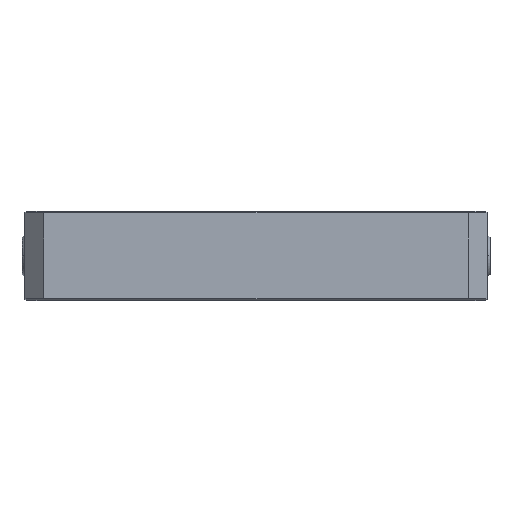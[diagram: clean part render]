
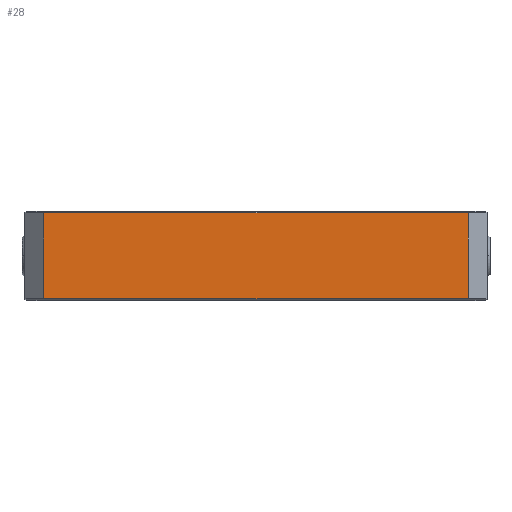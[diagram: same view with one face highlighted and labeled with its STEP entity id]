
A CAD part, top view. The second image highlights one B-rep face of the part: STEP entity #28.
In plain terms, the highlighted planar face has unit normal (0, 0, 1).
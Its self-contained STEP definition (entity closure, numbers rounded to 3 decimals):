
#28 = ADVANCED_FACE ( 'NONE', ( #12370 ), #20728, .F. ) ;
#279 = LINE ( 'NONE', #2946, #5683 ) ;
#319 = ORIENTED_EDGE ( 'NONE', *, *, #12063, .T. ) ;
#1119 = CARTESIAN_POINT ( 'NONE',  ( -71.65, 0.508, 63. ) ) ;
#1837 = VERTEX_POINT ( 'NONE', #7810 ) ;
#2946 = CARTESIAN_POINT ( 'NONE',  ( -71.65, 30., 63. ) ) ;
#5683 = VECTOR ( 'NONE', #18785, 1000. ) ;
#6024 = VERTEX_POINT ( 'NONE', #18094 ) ;
#6738 = AXIS2_PLACEMENT_3D ( 'NONE', #27042, #33987, #18075 ) ;
#7810 = CARTESIAN_POINT ( 'NONE',  ( 71.65, 29.492, 63. ) ) ;
#10281 = VECTOR ( 'NONE', #26620, 1000. ) ;
#10615 = CARTESIAN_POINT ( 'NONE',  ( -71.65, 29.492, 63. ) ) ;
#10729 = CARTESIAN_POINT ( 'NONE',  ( -78., 0.508, 63. ) ) ;
#11140 = VECTOR ( 'NONE', #13311, 1000. ) ;
#12063 = EDGE_CURVE ( 'NONE', #1837, #33432, #18138, .T. ) ;
#12091 = EDGE_CURVE ( 'NONE', #13535, #6024, #31456, .T. ) ;
#12370 = FACE_OUTER_BOUND ( 'NONE', #18694, .T. ) ;
#13311 = DIRECTION ( 'NONE',  ( -1., 0., 0. ) ) ;
#13535 = VERTEX_POINT ( 'NONE', #1119 ) ;
#13612 = DIRECTION ( 'NONE',  ( 0., 1., 0. ) ) ;
#18075 = DIRECTION ( 'NONE',  ( -1., 0., 0. ) ) ;
#18094 = CARTESIAN_POINT ( 'NONE',  ( 71.65, 0.508, 63. ) ) ;
#18138 = LINE ( 'NONE', #10615, #11140 ) ;
#18694 = EDGE_LOOP ( 'NONE', ( #24708, #28599, #24215, #319 ) ) ;
#18785 = DIRECTION ( 'NONE',  ( 0., -1., 0. ) ) ;
#18922 = VECTOR ( 'NONE', #13612, 1000. ) ;
#20728 = PLANE ( 'NONE',  #6738 ) ;
#24215 = ORIENTED_EDGE ( 'NONE', *, *, #32794, .T. ) ;
#24708 = ORIENTED_EDGE ( 'NONE', *, *, #32775, .T. ) ;
#25273 = CARTESIAN_POINT ( 'NONE',  ( -71.65, 29.492, 63. ) ) ;
#26620 = DIRECTION ( 'NONE',  ( 1., 0., 0. ) ) ;
#26818 = CARTESIAN_POINT ( 'NONE',  ( 71.65, 30., 63. ) ) ;
#27042 = CARTESIAN_POINT ( 'NONE',  ( -78., 30., 63. ) ) ;
#28599 = ORIENTED_EDGE ( 'NONE', *, *, #12091, .T. ) ;
#31456 = LINE ( 'NONE', #10729, #10281 ) ;
#32775 = EDGE_CURVE ( 'NONE', #33432, #13535, #279, .T. ) ;
#32794 = EDGE_CURVE ( 'NONE', #6024, #1837, #33860, .T. ) ;
#33432 = VERTEX_POINT ( 'NONE', #25273 ) ;
#33860 = LINE ( 'NONE', #26818, #18922 ) ;
#33987 = DIRECTION ( 'NONE',  ( 0., 0., -1. ) ) ;
